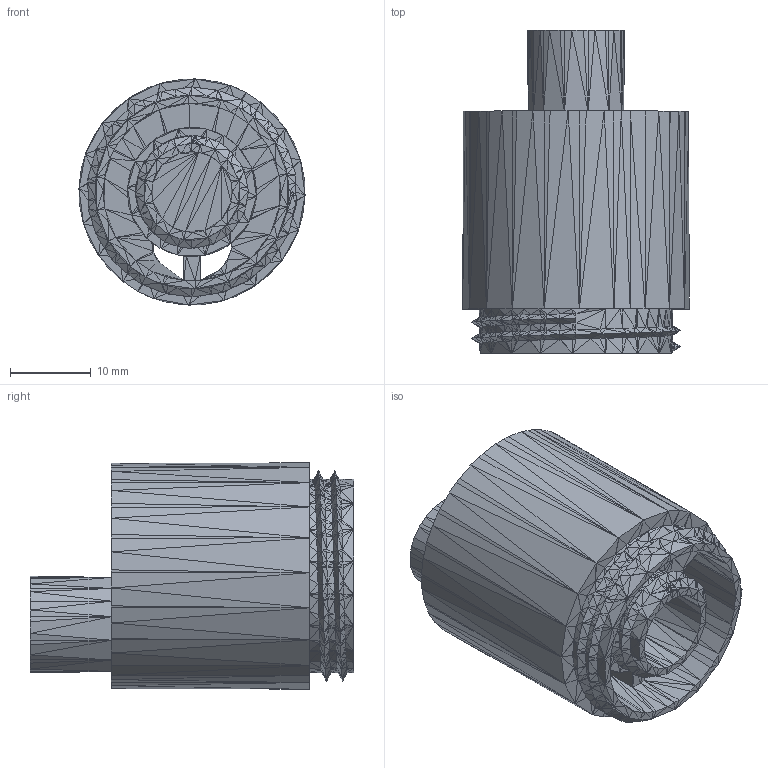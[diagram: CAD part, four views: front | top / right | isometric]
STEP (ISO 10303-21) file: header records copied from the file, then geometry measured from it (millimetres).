
FILE_DESCRIPTION(('Open CASCADE Model'),'2;1');
FILE_NAME('Open CASCADE Shape Model','2018-01-27T16:10:07',('Author'),( 'Open CASCADE'),'Open CASCADE STEP processor 6.9','Open CASCADE 6.9' ,'Unknown');
FILE_SCHEMA(('AUTOMOTIVE_DESIGN { 1 0 10303 214 1 1 1 1 }'));
Products named in the file (1): Open CASCADE STEP translator 6.9 1
Bounding box: 27.99 x 40 x 27.99 mm (x, y, z)
Volume: 10343.4 mm3; surface area: 7815.7 mm2
Topology: 1 solids, 1 shells, 2530 faces, 3795 edges, 1261 vertices
Faces by surface type: plane 2530
Entity records: 98680 total; most frequent: DIRECTION 16447, CARTESIAN_POINT 15177, LINE 11385, VECTOR 11385, ORIENTED_EDGE 7590, PCURVE 7590, DEFINITIONAL_REPRESENTATION 7590, EDGE_CURVE 3795
